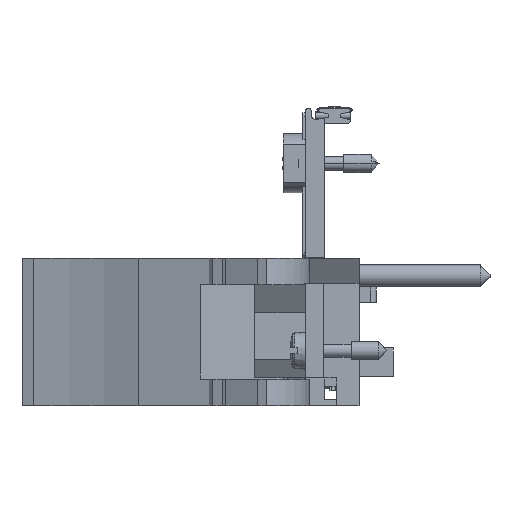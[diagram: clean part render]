
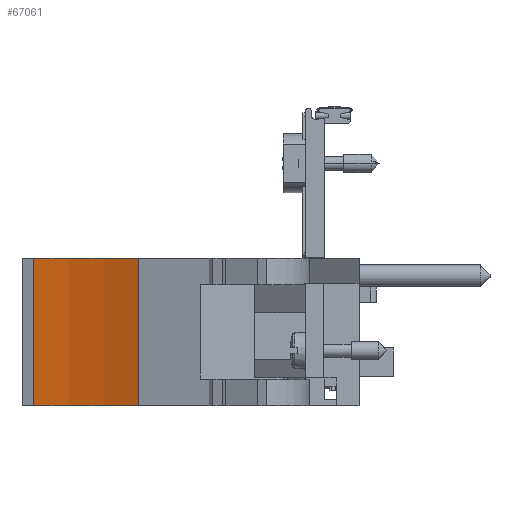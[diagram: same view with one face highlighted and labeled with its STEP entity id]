
A CAD part, front view. The second image highlights one B-rep face of the part: STEP entity #67061.
In plain terms, the highlighted cylindrical face has radius 51.46 mm (diameter 102.919 mm), a partial arc.
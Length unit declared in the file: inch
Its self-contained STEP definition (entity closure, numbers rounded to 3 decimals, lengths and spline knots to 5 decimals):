
#52371=CARTESIAN_POINT('',(-11.65133,-0.48944,-3.20201));
#52372=DIRECTION('',(0.,0.,-1.));
#52373=DIRECTION('',(0.16,0.987,0.));
#52374=AXIS2_PLACEMENT_3D('',#52371,#52372,#52373);
#52508=CARTESIAN_POINT('',(-11.65133,-0.48944,-3.99001));
#52509=DIRECTION('',(0.,0.,1.));
#52510=DIRECTION('',(0.435,0.9,0.));
#52511=AXIS2_PLACEMENT_3D('',#52508,#52509,#52510);
#52748=DIRECTION('',(0.,0.,1.));
#52749=VECTOR('',#52748,0.788);
#52750=CARTESIAN_POINT('',(-10.77003,1.3348,
-3.99001));
#52751=LINE('',#52750,#52749);
#52752=DIRECTION('',(0.,0.,-1.));
#52753=VECTOR('',#52752,0.788);
#52754=CARTESIAN_POINT('',(-11.328,1.51056,-3.20201));
#52755=LINE('',#52754,#52753);
#61008=CARTESIAN_POINT('',(-11.328,1.51056,-3.99001));
#61009=VERTEX_POINT('',#61008);
#61010=CARTESIAN_POINT('',(-10.77003,1.3348,
-3.99001));
#61011=VERTEX_POINT('',#61010);
#61098=CARTESIAN_POINT('',(-10.77003,1.3348,
-3.20201));
#61099=VERTEX_POINT('',#61098);
#61108=CARTESIAN_POINT('',(-11.328,1.51056,-3.20201));
#61109=VERTEX_POINT('',#61108);
#67049=CARTESIAN_POINT('',(-11.65133,-0.48944,-4.04001));
#67050=DIRECTION('',(0.,0.,1.));
#67051=DIRECTION('',(0.,1.,0.));
#67052=AXIS2_PLACEMENT_3D('',#67049,#67050,#67051);
#67053=CYLINDRICAL_SURFACE('',#67052,2.02597);
#67054=ORIENTED_EDGE('',*,*,#67037,.F.);
#67055=ORIENTED_EDGE('',*,*,#66749,.T.);
#67057=ORIENTED_EDGE('',*,*,#67056,.F.);
#67058=ORIENTED_EDGE('',*,*,#66661,.T.);
#67059=EDGE_LOOP('',(#67054,#67055,#67057,#67058));
#67060=FACE_OUTER_BOUND('',#67059,.F.);
#67061=ADVANCED_FACE('',(#67060),#67053,.F.);
#52375=CIRCLE('',#52374,2.02597);
#52512=CIRCLE('',#52511,2.02597);
#66661=EDGE_CURVE('',#61109,#61099,#52375,.T.);
#66749=EDGE_CURVE('',#61011,#61009,#52512,.T.);
#67037=EDGE_CURVE('',#61011,#61099,#52751,.T.);
#67056=EDGE_CURVE('',#61109,#61009,#52755,.T.);
